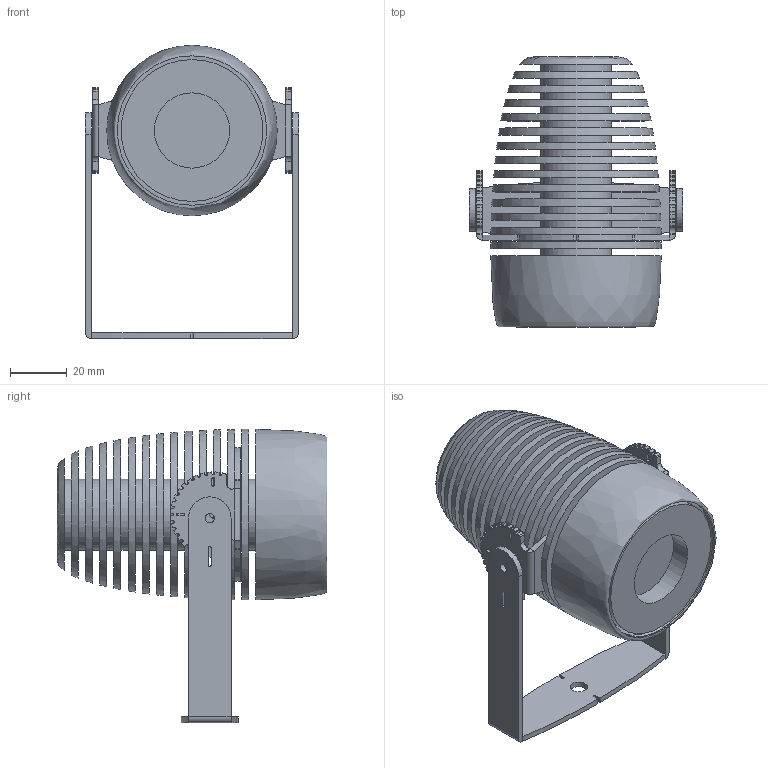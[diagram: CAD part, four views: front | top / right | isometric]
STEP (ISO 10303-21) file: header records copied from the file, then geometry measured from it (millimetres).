
FILE_DESCRIPTION(/* description */ (''),/* implementation_level */ '2;1');
FILE_NAME(/* name */ 'C:/Users/elena/Desktop/Vespa bracket.step',/* time_stamp */ '2020-06-24T13:31:05+02:00',/* author */ (''),/* organization */ (''),/* preprocessor_version */ 'ST-DEVELOPER v18.1',/* originating_system */ 'Autodesk Translation Framework v9.3.0.1241',/* authorisation */ '');
FILE_SCHEMA (('AUTOMOTIVE_DESIGN { 1 0 10303 214 3 1 1 }'));
Length unit declared in the file: centimetre
Products named in the file (1): (Unsaved)
Bounding box: 75 x 95 x 103.25 mm (x, y, z)
Volume: 154835.5 mm3; surface area: 93041.1 mm2
Topology: 5 solids, 5 shells, 443 faces, 1257 edges, 824 vertices
Faces by surface type: cylinder 248, plane 167, bspline 27, torus 1
Full cylindrical faces by diameter (mm): 2.5 x2, 3.25 x2, 5 x1, 6 x1, 25 x14, 26.5 x1, 49.923 x1, 52.6 x2
Entity records: 15226 total; most frequent: CARTESIAN_POINT 3177, DIRECTION 2675, ORIENTED_EDGE 2514, EDGE_CURVE 1257, AXIS2_PLACEMENT_3D 1007, VERTEX_POINT 825, LINE 661, VECTOR 661
